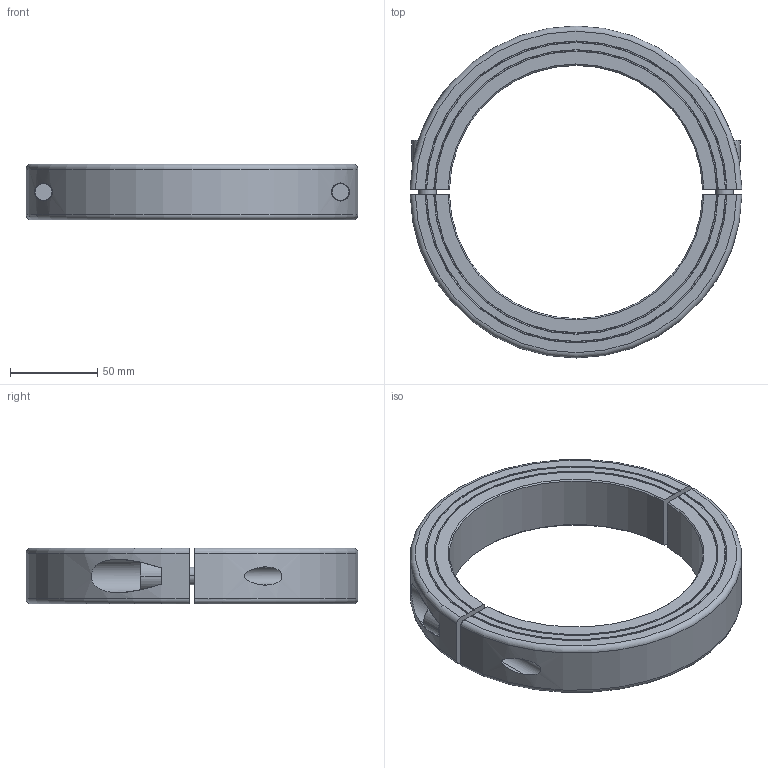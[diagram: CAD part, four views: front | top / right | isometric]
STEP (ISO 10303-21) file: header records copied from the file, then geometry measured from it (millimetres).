
FILE_DESCRIPTION((''),'2;1');
FILE_NAME('MSPH-145-F','2016-09-09T',('SYSTEM'),(''),'PRO/ENGINEER BY PARAMETRIC TECHNOLOGY CORPORATION, 2015110','PRO/ENGINEER BY PARAMETRIC TECHNOLOGY CORPORATION, 2015110','');
FILE_SCHEMA(('AUTOMOTIVE_DESIGN { 1 0 10303 214 1 1 1 1 }'));
Length unit declared in the file: millimetre
Products named in the file (1): MSPH-145-F
Bounding box: 189.97 x 190 x 32 mm (x, y, z)
Volume: 190257.5 mm3; surface area: 67861.1 mm2
Topology: 3 solids, 4 shells, 88 faces, 222 edges, 144 vertices
Faces by surface type: plane 34, cylinder 26, cone 20, torus 8
Entity records: 3531 total; most frequent: CARTESIAN_POINT 780, ORIENTED_EDGE 432, DIRECTION 416, EDGE_CURVE 222, AXIS2_PLACEMENT_3D 163, VERTEX_POINT 144, EDGE_LOOP 102, VECTOR 90
